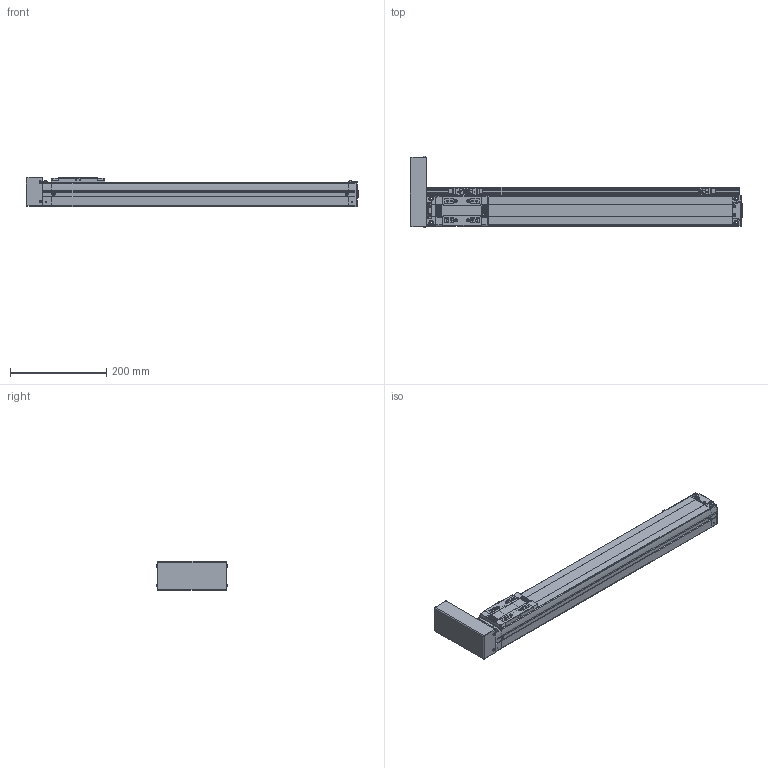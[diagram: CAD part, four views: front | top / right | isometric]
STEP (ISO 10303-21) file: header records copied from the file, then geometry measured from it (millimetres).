
FILE_DESCRIPTION(('STEP AP214'),'1');
FILE_NAME('Z:/Web/3D/SAN65/STP/SAN65ㅁㅁ-500PL+3SL.stp','2012-06-14T06:26:53',(' '),(' '),'Spatial InterOp 3D',' ',' ');
FILE_SCHEMA(('automotive_design'));
Length unit declared in the file: metre
Products named in the file (57): SAN65__-500; BODY-SAN65; REAR-SAN65; RRCV-SAN65; 스크루 : Round - M3.0 x 6.0; FRONT-SAN65; SHAFT-SAN65; RN8 x 0.75; SSFX-SAN65; SLIDE-SAN65; SLCV-SAN65; 스크루 : Countersunk - M3.0 x 6.0; ____202; PL; BTCV-SAN65; BHCS M3 X 6L; 3SL; SRL-16x17-450L; - OT; EE-SX674; SBK-SX674-352; HOME; + OT; DOG; SDG-SAN65; 스크루 : Round - M3.0 x 5.0
Assembly tree (56 placements, depth 4):
  ____202
    SAN65__-500
      BODY-SAN65
      REAR-SAN65
        REAR-SAN65
        RRCV-SAN65
        스크루 : Round - M3.0 x 6.0
        스크루 : Round - M3.0 x 6.0
        스크루 : Round - M3.0 x 6.0
        스크루 : Round - M3.0 x 6.0
        스크루 : Round - M3.0 x 6.0
        스크루 : Round - M3.0 x 6.0
      FRONT-SAN65
        FRONT-SAN65
        SHAFT-SAN65
        RN8 x 0.75
        SSFX-SAN65
        스크루 : Round - M3.0 x 6.0
        스크루 : Round - M3.0 x 6.0
        스크루 : Round - M3.0 x 6.0
        스크루 : Round - M3.0 x 6.0
      SLIDE-SAN65
        SLIDE-SAN65
        SLCV-SAN65
        스크루 : Countersunk - M3.0 x 6.0
        스크루 : Countersunk - M3.0 x 6.0
        스크루 : Countersunk - M3.0 x 6.0
        스크루 : Countersunk - M3.0 x 6.0
    PL
      BTCV-SAN65
      BHCS M3 X 6L
      BHCS M3 X 6L
      BHCS M3 X 6L
      BHCS M3 X 6L
    3SL
      SRL-16x17-450L
      스크루 : Round - M3.0 x 6.0
      스크루 : Round - M3.0 x 6.0
      - OT
        EE-SX674
        SBK-SX674-352
        스크루 : Round - M3.0 x 6.0
        스크루 : Round - M3.0 x 6.0
      HOME
        EE-SX674
        SBK-SX674-352
        스크루 : Round - M3.0 x 6.0
        스크루 : Round - M3.0 x 6.0
      + OT
        EE-SX674
        SBK-SX674-352
        스크루 : Round - M3.0 x 6.0
        스크루 : Round - M3.0 x 6.0
      DOG
        SDG-SAN65
        스크루 : Round - M3.0 x 5.0
        스크루 : Round - M3.0 x 5.0
Bounding box: 690.15 x 149.13 x 61 mm (x, y, z)
Volume: 2447936.3 mm3; surface area: 351985.9 mm2
Topology: 46 solids, 46 shells, 1969 faces, 5021 edges, 3270 vertices
Faces by surface type: plane 1293, cylinder 491, cone 101, sphere 36, bspline 30, torus 15, extrusion 3
Full cylindrical faces by diameter (mm): 0.571 x2, 0.706 x1, 1.727 x2, 2.132 x1, 2.2 x4, 2.5 x15, 2.528 x4, 3 x6, 3.121 x2, 3.3 x4, 3.4 x8, 3.5 x14, 4.2 x36, 4.849 x4, 5 x2, 5.5 x4, 5.987 x2, 6 x6, 6.35 x1, 6.5 x2, 7 x1, 8 x4, 9.5 x4, 13 x1, 15 x1, 19 x1, 26 x1, 38.1 x1
Entity records: 79237 total; most frequent: CARTESIAN_POINT 15067, DIRECTION 9849, ORIENTED_EDGE 9328, EDGE_CURVE 4664, AXIS2_PLACEMENT_3D 3284, VECTOR 3281, LINE 3278, VERTEX_POINT 3210
